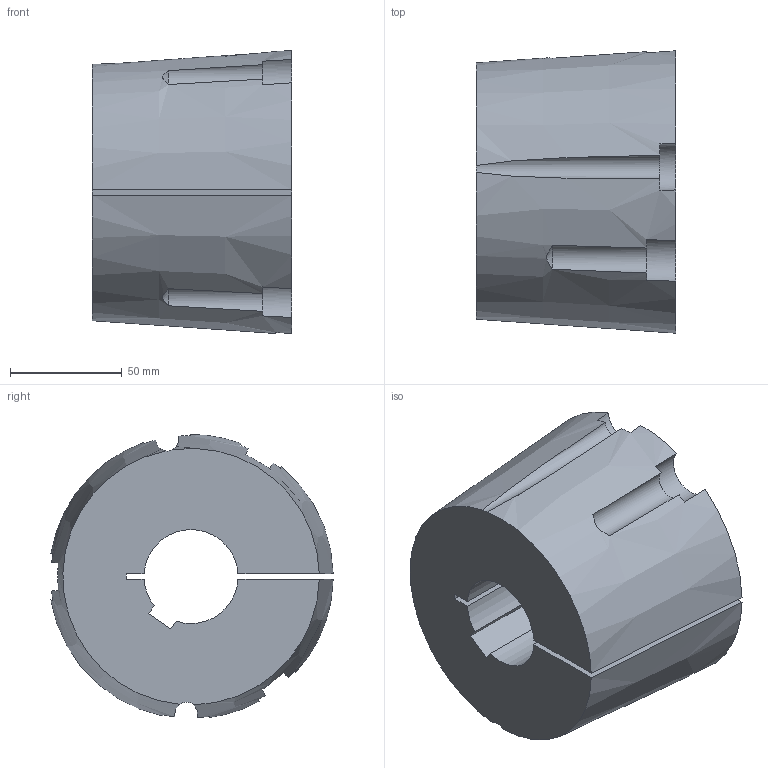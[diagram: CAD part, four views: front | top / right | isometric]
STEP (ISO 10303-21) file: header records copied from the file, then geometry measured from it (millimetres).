
FILE_DESCRIPTION( ( 'STEP AP203' ), '1' );
FILE_NAME( 'D:/export/antriebselemente/spannbuchsen_und_spannsaetze/taper-spannbuchsen_1008_bis_5050/taper-spannbuchsen_62251042Isometric_208.stp', '2018-12-11T11:11:26', ( '' ), ( '' ), ' ', 'PARTsolutions', ' ' );
FILE_SCHEMA( ( 'CONFIG_CONTROL_DESIGN' ) );
Length unit declared in the file: millimetre
Products named in the file (1): _taper-spannbuchsen_62251042
Bounding box: 89 x 126.13 x 126.46 mm (x, y, z)
Volume: 859878.5 mm3; surface area: 75911.3 mm2
Topology: 1 solids, 1 shells, 34 faces, 96 edges, 64 vertices
Faces by surface type: plane 15, cylinder 13, cone 6
Entity records: 1315 total; most frequent: CARTESIAN_POINT 391, ORIENTED_EDGE 192, DIRECTION 186, EDGE_CURVE 96, AXIS2_PLACEMENT_3D 80, VERTEX_POINT 64, CIRCLE 45, ADVANCED_FACE 34
